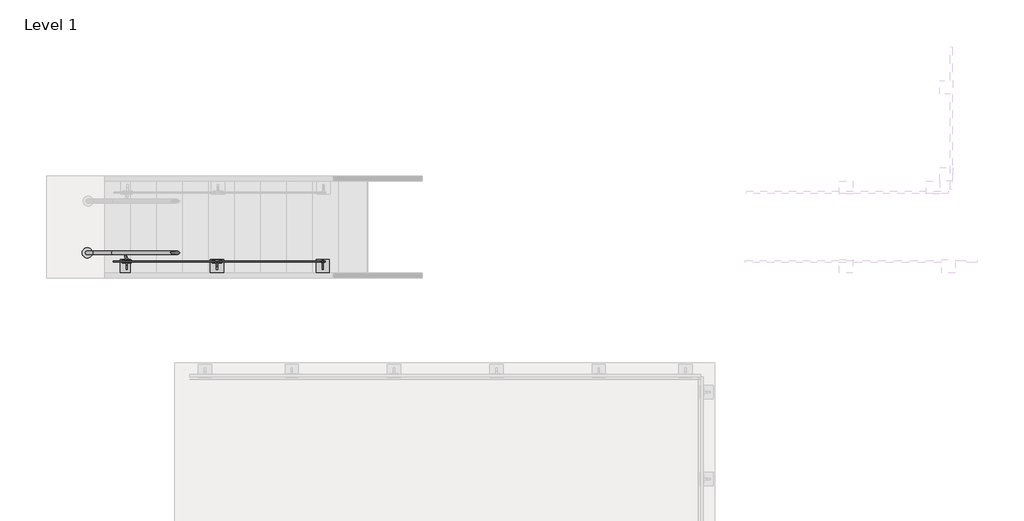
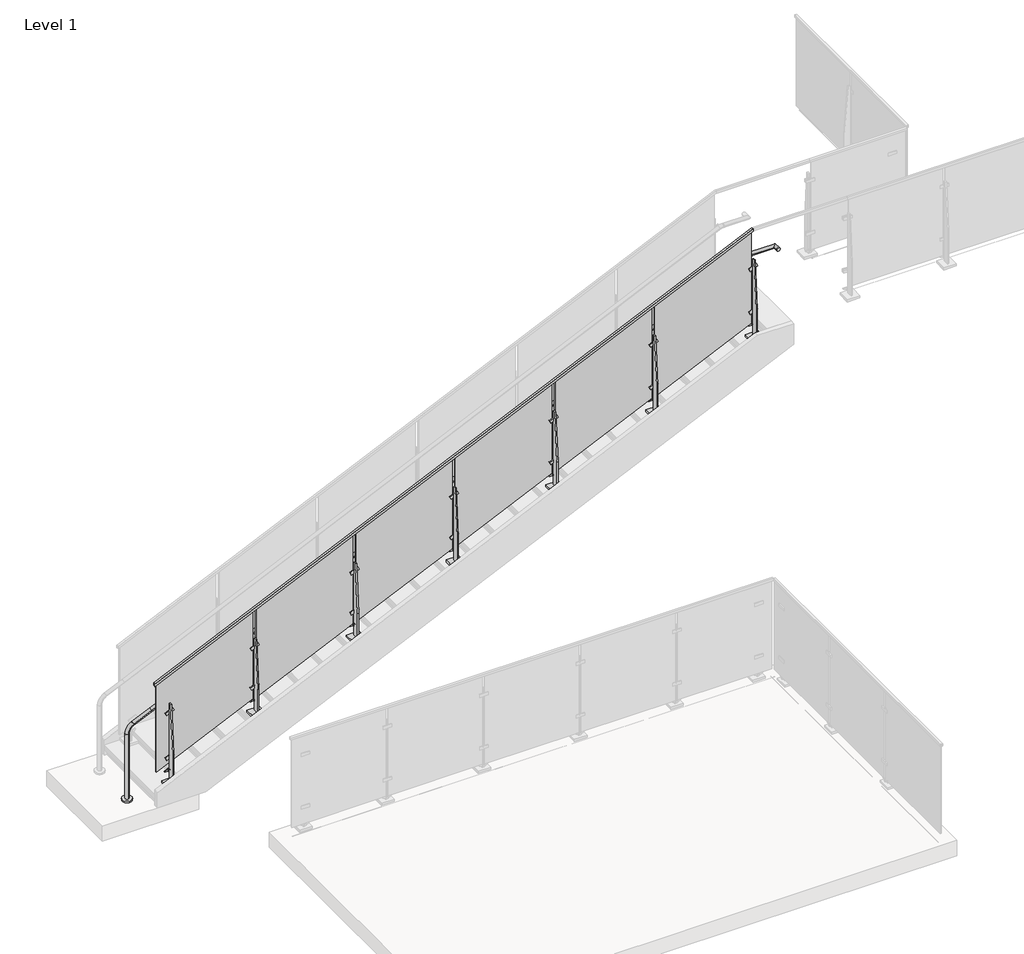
# One storey, part 10 of 37: 1 railing.
"""IFC4 building model written with IfcOpenShell, lengths in millimetres."""

from ifc_helpers import new_model, si_unit, point, frame, frame_2d, origin, place, context, project, spatial, polyline, circle_curve, ellipse_curve, trimmed, segment, composite_curve, outline, extrude, faceted_brep, element, save
from ifc_brep_helpers import plane_surface, cylinder_surface, revolved_surface, advanced_brep

model = new_model("IFC4")

# Units and contexts
model_context = context("Model", 3, world=origin())
ifc_project = project(units=[si_unit("LENGTHUNIT", "METRE", prefix="MILLI")], contexts=[model_context])

# Site, building, storey
site = spatial("IfcSite", under=ifc_project)
building = spatial("IfcBuilding", under=site)
storey = spatial("IfcBuildingStorey", under=building, Name="Level 1", Elevation=0.0)

# Railing
placement = place(None, origin())
element("IfcRailing", 1, ObjectType="VIVA-SOLO-Glass-Floor Mount-Stair_Right", at=placement, inside=storey, context=model_context, shape_type="SolidModel", body=[
    advanced_brep(
    [(-7332.9308273, 3620.0715519, 3778.85912), (-7332.9308273, 3658.1715519, 3778.85912), (-7059.8808273, 3658.1715519, 3778.85912), (-7097.9808273, 3620.0715519, 3778.85912), (-7097.9808273, 3575.6215519, 3778.85912), (-7059.8808273, 3575.6215519, 3778.85912)],
    [
        (0, 1, circle_curve(frame((-7332.9308273, 3639.1215519, 3778.85912), z_axis=(-1.0, 0.0, 0.0), x_axis=(0.0, 1.0, 0.0)), 19.05)),
        (1, 0, circle_curve(frame((-7332.9308273, 3639.1215519, 3778.85912), z_axis=(-1.0, 0.0, 0.0), x_axis=(0.0, 1.0, 0.0)), 19.05)),
        (1, 2),
        (2, 3, ellipse_curve(frame((-7078.9308273, 3639.1215519, 3778.85912), z_axis=(-0.707106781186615, 0.7071067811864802, 0.0), x_axis=(-0.70710678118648, -0.7071067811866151, 0.0)), 26.9407684, 19.05)),
        (3, 0),
        (3, 2, ellipse_curve(frame((-7078.9308273, 3639.1215519, 3778.85912), z_axis=(-0.707106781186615, 0.7071067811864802, 0.0), x_axis=(-0.70710678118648, -0.7071067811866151, 0.0)), 26.9407684, 19.05)),
        (4, 5, circle_curve(frame((-7078.9308273, 3575.6215519, 3778.85912), z_axis=(0.0, -1.0, 0.0), x_axis=(1.0, 0.0, 0.0)), 19.05)),
        (5, 4, circle_curve(frame((-7078.9308273, 3575.6215519, 3778.85912), z_axis=(0.0, -1.0, 0.0), x_axis=(1.0, 0.0, 0.0)), 19.05)),
        (2, 5),
        (4, 3),
    ],
    [
        plane_surface(frame((-7332.9308273, 3639.1215519, 3778.85912), z_axis=(-1.0, 0.0, 0.0), x_axis=(0.0, 0.0, 1.0))),
        cylinder_surface(frame((-7332.9308273, 3639.1215519, 3778.85912), z_axis=(-1.0, 0.0, 0.0), x_axis=(0.0, 1.0, 0.0)), 19.05),
        plane_surface(frame((-7078.9308273, 3575.6215519, 3778.85912), z_axis=(0.0, -1.0, 0.0), x_axis=(0.0, 0.0, 1.0))),
        cylinder_surface(frame((-7078.9308273, 3639.1215519, 3778.85912), z_axis=(0.0, 1.0, 0.0), x_axis=(1.0, 0.0, 0.0)), 19.05),
    ],
    [
        (0, [[1, 2]]),
        (1, [[-2, 3, 4, 5]]),
        (1, [[-1, -5, 6, -3]]),
        (2, [[7, 8]]),
        (3, [[-4, 9, -7, 10]]),
        (3, [[-6, -10, -8, -9]]),
    ],
),
    extrude(outline(composite_curve([segment(trimmed(circle_curve(frame_2d((-13901.6550242, 3639.1215519)), 50.8), [point((-13901.6550242, 3689.9215519))], [point((-13901.6550242, 3588.3215519))], False, "CARTESIAN"), True, "CONTINUOUS"), segment(trimmed(circle_curve(frame_2d((-13901.6550242, 3639.1215519)), 50.8), [point((-13901.6550242, 3588.3215519))], [point((-13901.6550242, 3689.9215519))], False, "CARTESIAN"), True, "CONTINUOUS")], self_intersect=False)), frame((0.0, 0.0, -1.27), z_axis=(0.0, 0.0, 1.0), x_axis=(1.0, 0.0, 0.0)), (0.0, 0.0, 1.0), 19.05),
    advanced_brep(
    [(-13901.6550242, 3620.0715519, 17.78), (-13901.6550242, 3658.1715519, 17.78), (-13901.6550242, 3620.0715519, 738.6446838), (-13901.6550242, 3658.1715519, 738.6446838), (-13842.1106053, 3658.1715519, 831.1319159), (-13842.1106053, 3620.0715519, 831.1319159), (-13655.0096028, 3620.0715519, 916.2100527), (-13655.0096028, 3658.1715519, 916.2100527), (-7379.6076911, 3620.0715519, 3769.7463521), (-7379.6076911, 3658.1715519, 3769.7463521), (-7332.9308273, 3620.0715519, 3778.85912), (-7332.9308273, 3658.1715519, 3778.85912), (-7337.55211, 3658.1715519, 3778.85912), (-7337.55211, 3620.0715519, 3778.85912)],
    [
        (0, 1, circle_curve(frame((-13901.6550242, 3639.1215519, 17.78), z_axis=(0.0, 0.0, -1.0), x_axis=(0.0, 1.0, 0.0)), 19.05)),
        (1, 0, circle_curve(frame((-13901.6550242, 3639.1215519, 17.78), z_axis=(0.0, 0.0, -1.0), x_axis=(0.0, 1.0, 0.0)), 19.05)),
        (0, 2),
        (2, 3, circle_curve(frame((-13901.6550242, 3639.1215519, 738.6446838), z_axis=(0.0, 0.0, -1.0), x_axis=(0.0, 1.0, 0.0)), 19.05)),
        (3, 1),
        (3, 2, circle_curve(frame((-13901.6550242, 3639.1215519, 738.6446838), z_axis=(0.0, 0.0, -1.0), x_axis=(0.0, 1.0, 0.0)), 19.05)),
        (4, 3, circle_curve(frame((-13800.0550242, 3658.1715519, 738.6446838), z_axis=(0.0, -1.0, 0.0), x_axis=(-1.0, 0.0, 0.0)), 101.6)),
        (2, 5, circle_curve(frame((-13800.0550242, 3620.0715519, 738.6446838), z_axis=(0.0, 1.0, 0.0), x_axis=(-1.0, 0.0, 0.0)), 101.6)),
        (5, 4, circle_curve(frame((-13842.1106053, 3639.1215519, 831.1319159), z_axis=(-0.9103074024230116, 0.0, -0.4139328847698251), x_axis=(0.0, 1.0, 0.0)), 19.05)),
        (4, 5, circle_curve(frame((-13842.1106053, 3639.1215519, 831.1319159), z_axis=(-0.9103074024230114, 0.0, -0.4139328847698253), x_axis=(0.0, 1.0, 0.0)), 19.05)),
        (5, 6),
        (6, 7, circle_curve(frame((-13655.0096028, 3639.1215519, 916.2100527), z_axis=(-0.9103074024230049, 0.0, -0.4139328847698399), x_axis=(0.0, 1.0, 0.0)), 19.05)),
        (7, 4),
        (7, 6, circle_curve(frame((-13655.0096028, 3639.1215519, 916.2100527), z_axis=(-0.9103074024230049, 0.0, -0.4139328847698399), x_axis=(0.0, 1.0, 0.0)), 19.05)),
        (6, 8),
        (8, 9, circle_curve(frame((-7379.6076911, 3639.1215519, 3769.7463521), z_axis=(-0.9103074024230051, 0.0, -0.4139328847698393), x_axis=(0.0, 1.0, 0.0)), 19.05)),
        (9, 7),
        (9, 8, circle_curve(frame((-7379.6076911, 3639.1215519, 3769.7463521), z_axis=(-0.9103074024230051, 0.0, -0.4139328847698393), x_axis=(0.0, 1.0, 0.0)), 19.05)),
        (10, 11, circle_curve(frame((-7332.9308273, 3639.1215519, 3778.85912), z_axis=(1.0, 0.0, 0.0), x_axis=(0.0, 1.0, 0.0)), 19.05)),
        (11, 10, circle_curve(frame((-7332.9308273, 3639.1215519, 3778.85912), z_axis=(1.0, 0.0, 0.0), x_axis=(0.0, 1.0, 0.0)), 19.05)),
        (12, 13, circle_curve(frame((-7337.55211, 3639.1215519, 3778.85912), z_axis=(1.0, 0.0, 0.0), x_axis=(0.0, 1.0, 0.0)), 19.05)),
        (13, 10),
        (11, 12),
        (13, 12, circle_curve(frame((-7337.55211, 3639.1215519, 3778.85912), z_axis=(1.0, 0.0, 0.0), x_axis=(0.0, 1.0, 0.0)), 19.05)),
        (12, 9, circle_curve(frame((-7337.55211, 3658.1715519, 3677.25912), z_axis=(0.0, -1.0, 0.0), x_axis=(-0.4139328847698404, 0.0, 0.9103074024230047)), 101.6)),
        (8, 13, circle_curve(frame((-7337.55211, 3620.0715519, 3677.25912), z_axis=(0.0, 1.0, 0.0), x_axis=(-0.4139328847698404, 0.0, 0.9103074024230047)), 101.6)),
    ],
    [
        plane_surface(frame((-13920.7050242, 3601.0215519, 17.78), z_axis=(0.0, 0.0, -1.0), x_axis=(1.0, 0.0, 0.0))),
        cylinder_surface(frame((-13901.6550242, 3639.1215519, 17.78), z_axis=(0.0, 0.0, -1.0), x_axis=(0.0, 1.0, 0.0)), 19.05),
        revolved_surface(trimmed(ellipse_curve(frame((-13901.6550242, 3639.1215519, 738.6446838), z_axis=(0.0, 0.0, -1.0), x_axis=(0.0, 1.0, 0.0)), 19.05, 19.05), [point((-13901.6550242, 3620.0715519, 738.6446838))], [point((-13901.6550242, 3658.1715519, 738.6446838))], True, "CARTESIAN"), (-13800.0550242, 3639.1215519, 738.6446838), (0.0, 1.0, 0.0)),
        revolved_surface(trimmed(ellipse_curve(frame((-13901.6550242, 3639.1215519, 738.6446838), z_axis=(0.0, 0.0, -1.0), x_axis=(0.0, 1.0, 0.0)), 19.05, 19.05), [point((-13901.6550242, 3658.1715519, 738.6446838))], [point((-13901.6550242, 3620.0715519, 738.6446838))], True, "CARTESIAN"), (-13800.0550242, 3639.1215519, 738.6446838), (0.0, 1.0, 0.0)),
        cylinder_surface(frame((-13842.1106053, 3639.1215519, 831.1319159), z_axis=(-0.9103074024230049, 0.0, -0.4139328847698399), x_axis=(0.0, 1.0, 0.0)), 19.05),
        cylinder_surface(frame((-13655.0096028, 3639.1215519, 916.2100527), z_axis=(-0.9103074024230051, 0.0, -0.4139328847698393), x_axis=(0.0, 1.0, 0.0)), 19.05),
        plane_surface(frame((-7332.9308273, 3639.1215519, 3797.90912), z_axis=(1.0, 0.0, 0.0), x_axis=(0.0, 1.0, 0.0))),
        cylinder_surface(frame((-7337.55211, 3639.1215519, 3778.85912), z_axis=(-1.0, 0.0, 0.0), x_axis=(0.0, 1.0, 0.0)), 19.05),
        revolved_surface(trimmed(ellipse_curve(frame((-7379.6076911, 3639.1215519, 3769.7463521), z_axis=(-0.9103074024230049, 0.0, -0.41393288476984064), x_axis=(0.0, 1.0000000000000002, 0.0)), 19.05, 19.05), [point((-7379.6076911, 3620.0715519, 3769.7463521))], [point((-7379.6076911, 3658.1715519, 3769.7463521))], True, "CARTESIAN"), (-7337.55211, 3639.1215519, 3677.25912), (0.0, 1.0000000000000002, 0.0)),
        revolved_surface(trimmed(ellipse_curve(frame((-7379.6076911, 3639.1215519, 3769.7463521), z_axis=(-0.9103074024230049, 0.0, -0.41393288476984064), x_axis=(0.0, 1.0000000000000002, 0.0)), 19.05, 19.05), [point((-7379.6076911, 3658.1715519, 3769.7463521))], [point((-7379.6076911, 3620.0715519, 3769.7463521))], True, "CARTESIAN"), (-7337.55211, 3639.1215519, 3677.25912), (0.0, 1.0000000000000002, 0.0)),
    ],
    [
        (0, [[1, 2]]),
        (1, [[-1, 3, 4, 5]]),
        (1, [[-2, -5, 6, -3]]),
        (2, [[7, -4, 8, 9]]),
        (3, [[-8, -6, -7, 10]]),
        (4, [[-9, 11, 12, 13]]),
        (4, [[-10, -13, 14, -11]]),
        (5, [[-12, 15, 16, 17]]),
        (5, [[-14, -17, 18, -15]]),
        (6, [[19, 20]]),
        (7, [[21, 22, -20, 23]]),
        (7, [[24, -23, -19, -22]]),
        (8, [[25, -16, 26, -21]]),
        (9, [[-26, -18, -25, -24]]),
    ],
),
    faceted_brep([(-13662.8950242, 3542.2840519, 1263.7514087), (-13662.8950242, 3564.5090519, 1263.7514087), (-13662.8950242, 3564.5090519, 1235.8487465), (-13662.8950242, 3559.7465519, 1235.8487465), (-13662.8950242, 3559.7465519, 1258.5196596), (-13662.8950242, 3547.0465519, 1258.5196596), (-13662.8950242, 3547.0465519, 1235.8487465), (-13662.8950242, 3542.2840519, 1235.8487465), (-7363.6950242, 3542.2840519, 4128.10912), (-7363.6950242, 3542.2840519, 4100.2064577), (-7363.6950242, 3547.0465519, 4100.2064577), (-7363.6950242, 3547.0465519, 4122.8773708), (-7363.6950242, 3559.7465519, 4122.8773708), (-7363.6950242, 3559.7465519, 4100.2064577), (-7363.6950242, 3564.5090519, 4100.2064577), (-7363.6950242, 3564.5090519, 4128.10912)], [[[0, 1, 2, 3, 4, 5, 6, 7]], [[8, 9, 10, 11, 12, 13, 14, 15]], [[1, 0, 8, 15]], [[2, 1, 15, 14]], [[3, 2, 14, 13]], [[4, 3, 13, 12]], [[5, 4, 12, 11]], [[6, 5, 11, 10]], [[7, 6, 10, 9]], [[0, 7, 9, 8]]]),
    extrude(outline(polyline([(4115.0752337, -7380.2453109), (3653.0820544, -8396.2453109), (2617.7111027, -8396.2453109), (3079.7042819, -7380.2453109), (4115.0752337, -7380.2453109)])), frame((0.0, 3547.0465519, 0.0), z_axis=(0.0, 1.0, 0.0), x_axis=(0.0, 0.0, 1.0)), (0.0, 0.0, 1.0), 12.7),
    extrude(outline(polyline([(-12.7, 0.0), (-12.7, 3.175), (50.8, 65.0875), (61.9125, 65.0875), (61.9125, 34.9249999), (58.7375, 34.9249999), (0.0, 3.175), (0.0, 0.0), (-12.7, 0.0)])), frame((-8441.1821543, 3631.1840519, 3265.6208023), z_axis=(0.8987940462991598, 0.0, 0.4383711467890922), x_axis=(0.0, -1.0, 0.0)), (0.0, 0.0, 1.0), 12.7),
    extrude(outline(polyline([(3537.5215519, 3320.5161681), (3537.5215519, 2461.8461538), (3474.0215519, 2461.8461538), (3474.0215519, 2787.1161681), (3512.1215519, 3320.5161681), (3537.5215519, 3320.5161681)])), frame((-8419.9116909, 0.0, 0.0), z_axis=(1.0, 0.0, 0.0), x_axis=(0.0, 1.0, 0.0)), (0.0, 0.0, 1.0), 12.7),
    extrude(outline(polyline([(0.0, -88.9), (0.0, 0.0), (9.525, 0.0), (9.525, -88.9), (0.0, -88.9)])), frame((-8366.6429776, 3547.0465519, 2757.8296699), z_axis=(-0.4383711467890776, 0.0, 0.8987940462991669), x_axis=(0.0, -1.0, 0.0)), (0.0, 0.0, 1.0), 31.75),
    extrude(outline(polyline([(0.0, -88.9), (0.0, 0.0), (9.525, 0.0), (9.525, -88.9), (0.0, -88.9)])), frame((-8366.6429776, 3569.2715519, 3228.6763813), z_axis=(-0.4383711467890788, 0.0, 0.8987940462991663), x_axis=(0.0, -1.0, 0.0)), (0.0, 0.0, 1.0), 31.75),
    extrude(outline(polyline([(0.0, -88.9), (0.0, 0.0), (9.525, 0.0), (9.525, -88.9), (0.0, -88.9)])), frame((-8366.6429776, 3547.0465519, 3228.6763813), z_axis=(-0.4383711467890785, 0.0, 0.8987940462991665), x_axis=(0.0, -1.0, 0.0)), (0.0, 0.0, 1.0), 31.75),
    extrude(outline(polyline([(0.0, -88.9), (0.0, 0.0), (9.525, 0.0), (9.525, -88.9), (0.0, -88.9)])), frame((-8366.6429776, 3569.2715519, 2757.8296699), z_axis=(-0.4383711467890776, 0.0, 0.8987940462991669), x_axis=(0.0, -1.0, 0.0)), (0.0, 0.0, 1.0), 31.75),
    extrude(outline(polyline([(2624.3409848, -8377.7915922), (2630.048327, -8380.575249), (2591.0771321, -8460.4780397), (2585.3697899, -8457.6943829), (2585.1586316, -8408.1362378), (2624.3409848, -8377.7915922)])), frame((0.0, 3547.0465519, 0.0), z_axis=(0.0, 1.0, 0.0), x_axis=(0.0, 0.0, 1.0)), (0.0, 0.0, 1.0), 12.7),
    extrude(outline(composite_curve([segment(polyline([(0.0, 0.0), (2.8057896, 0.0)]), True, "CONTINUOUS"), segment(trimmed(circle_curve(frame_2d((26.8875078, 8.0765616)), 25.4), [point((2.8057896, 0.0))], [point((8.7901892, -9.7460941))], True, "CARTESIAN"), True, "CONTINUOUS"), segment(polyline([(8.7901892, -9.7460941), (6.4034746, -11.1240644)]), True, "CONTINUOUS"), segment(trimmed(circle_curve(frame_2d((24.5007933, 6.6985913)), 25.4), [point((6.4034746, -11.1240644))], [point((0.0, 0.0))], False, "CARTESIAN"), True, "CONTINUOUS")], self_intersect=False)), frame((-8457.1032718, 3631.0848055, 3254.8076036), z_axis=(0.8987940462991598, 0.0, 0.4383711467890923), x_axis=(-0.37964054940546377, 0.5000000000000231, 0.7783784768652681)), (0.0, 0.0, 1.0), 50.8),
    extrude(outline(polyline([(-8347.6804409, 3571.6528019), (-8347.6804409, 3439.8903019), (-8479.4429409, 3439.8903019), (-8479.4429409, 3571.6528019), (-8347.6804409, 3571.6528019)])), frame((0.0, 0.0, 2461.8461538), z_axis=(0.0, 0.0, 1.0), x_axis=(1.0, 0.0, 0.0)), (0.0, 0.0, 1.0), 25.4),
    extrude(outline(composite_curve([segment(trimmed(circle_curve(frame_2d((2753.6743722, -8413.5535149)), 6.35), [point((2753.6743722, -8407.2035149))], [point((2753.6743722, -8419.9035149))], False, "CARTESIAN"), True, "CONTINUOUS"), segment(trimmed(circle_curve(frame_2d((2753.6743722, -8413.5535149)), 6.35), [point((2753.6743722, -8419.9035149))], [point((2753.6743722, -8407.2035149))], False, "CARTESIAN"), True, "CONTINUOUS")], self_intersect=False)), frame((0.0, 3547.0465519, 0.0), z_axis=(0.0, 1.0, 0.0), x_axis=(0.0, 0.0, 1.0)), (0.0, 0.0, 1.0), 12.7),
    extrude(outline(composite_curve([segment(trimmed(circle_curve(frame_2d((3223.4591393, -8413.5535149)), 6.35), [point((3223.4591393, -8407.2035149))], [point((3223.4591393, -8419.9035149))], False, "CARTESIAN"), True, "CONTINUOUS"), segment(trimmed(circle_curve(frame_2d((3223.4591393, -8413.5535149)), 6.35), [point((3223.4591393, -8419.9035149))], [point((3223.4591393, -8407.2035149))], False, "CARTESIAN"), True, "CONTINUOUS")], self_intersect=False)), frame((0.0, 3547.0465519, 0.0), z_axis=(0.0, 1.0, 0.0), x_axis=(0.0, 0.0, 1.0)), (0.0, 0.0, 1.0), 12.7),
    extrude(outline(composite_curve([segment(trimmed(circle_curve(frame_2d((2596.3552311, -8413.5535149)), 11.1125), [point((2596.3552311, -8402.4410149))], [point((2596.3552311, -8424.6660149))], False, "CARTESIAN"), True, "CONTINUOUS"), segment(trimmed(circle_curve(frame_2d((2596.3552311, -8413.5535149)), 11.1125), [point((2596.3552311, -8424.6660149))], [point((2596.3552311, -8402.4410149))], False, "CARTESIAN"), True, "CONTINUOUS")], self_intersect=False)), frame((0.0, 3537.5215519, 0.0), z_axis=(0.0, 1.0, 0.0), x_axis=(0.0, 0.0, 1.0)), (0.0, 0.0, 1.0), 25.4),
    extrude(outline(polyline([(3637.6822818, -8430.1119776), (3175.6891026, -9446.1119776), (2148.7880258, -9446.1119776), (2610.781205, -8430.1119776), (3637.6822818, -8430.1119776)])), frame((0.0, 3547.0465519, 0.0), z_axis=(0.0, 1.0, 0.0), x_axis=(0.0, 0.0, 1.0)), (0.0, 0.0, 1.0), 12.7),
    extrude(outline(polyline([(-12.7, 0.0), (-12.7, 3.175), (50.8, 65.0875), (61.9125, 65.0875), (61.9125, 34.925), (58.7375, 34.925), (0.0, 3.175), (0.0, 0.0), (-12.7, 0.0)])), frame((-9491.0488209, 3631.1840519, 2788.2278505), z_axis=(0.8987940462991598, 0.0, 0.4383711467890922), x_axis=(0.0, -1.0, 0.0)), (0.0, 0.0, 1.0), 12.7),
    extrude(outline(polyline([(3537.5215519, 2843.1232162), (3537.5215519, 1992.9230769), (3474.0215519, 1992.9230769), (3474.0215519, 2309.7232162), (3512.1215519, 2843.1232162), (3537.5215519, 2843.1232162)])), frame((-9469.7783575, 0.0, 0.0), z_axis=(1.0, 0.0, 0.0), x_axis=(0.0, 1.0, 0.0)), (0.0, 0.0, 1.0), 12.7),
    extrude(outline(polyline([(0.0, -88.9), (0.0, 0.0), (9.525, 0.0), (9.525, -88.9), (0.0, -88.9)])), frame((-9416.5096443, 3547.0465519, 2288.906593), z_axis=(-0.4383711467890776, 0.0, 0.8987940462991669), x_axis=(0.0, -1.0, 0.0)), (0.0, 0.0, 1.0), 31.75),
    extrude(outline(polyline([(0.0, -88.9), (0.0, 0.0), (9.525, 0.0), (9.525, -88.9), (0.0, -88.9)])), frame((-9416.5096443, 3569.2715519, 2751.2834295), z_axis=(-0.4383711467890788, 0.0, 0.8987940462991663), x_axis=(0.0, -1.0, 0.0)), (0.0, 0.0, 1.0), 31.75),
    extrude(outline(polyline([(0.0, -88.9), (0.0, 0.0), (9.525, 0.0), (9.525, -88.9), (0.0, -88.9)])), frame((-9416.5096443, 3547.0465519, 2751.2834295), z_axis=(-0.4383711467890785, 0.0, 0.8987940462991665), x_axis=(0.0, -1.0, 0.0)), (0.0, 0.0, 1.0), 31.75),
    extrude(outline(polyline([(0.0, -88.9), (0.0, 0.0), (9.525, 0.0), (9.525, -88.9), (0.0, -88.9)])), frame((-9416.5096443, 3569.2715519, 2288.906593), z_axis=(-0.4383711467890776, 0.0, 0.8987940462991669), x_axis=(0.0, -1.0, 0.0)), (0.0, 0.0, 1.0), 31.75),
    extrude(outline(polyline([(2155.4179079, -9427.6582588), (2161.1252501, -9430.4419156), (2122.1540552, -9510.3447063), (2116.446713, -9507.5610496), (2116.2355546, -9458.0029045), (2155.4179079, -9427.6582588)])), frame((0.0, 3547.0465519, 0.0), z_axis=(0.0, 1.0, 0.0), x_axis=(0.0, 0.0, 1.0)), (0.0, 0.0, 1.0), 12.7),
    extrude(outline(composite_curve([segment(polyline([(0.0, 0.0), (2.8057896, 0.0)]), True, "CONTINUOUS"), segment(trimmed(circle_curve(frame_2d((26.8875079, 8.0765616)), 25.4), [point((2.8057896, 0.0))], [point((8.7901892, -9.7460941))], True, "CARTESIAN"), True, "CONTINUOUS"), segment(polyline([(8.7901892, -9.7460941), (6.4034747, -11.1240644)]), True, "CONTINUOUS"), segment(trimmed(circle_curve(frame_2d((24.5007933, 6.6985913)), 25.4), [point((6.4034747, -11.1240644))], [point((0.0, 0.0))], False, "CARTESIAN"), True, "CONTINUOUS")], self_intersect=False)), frame((-9506.9699385, 3631.0848055, 2777.4146517), z_axis=(0.8987940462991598, 0.0, 0.4383711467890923), x_axis=(-0.37964054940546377, 0.5000000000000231, 0.7783784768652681)), (0.0, 0.0, 1.0), 50.8),
    extrude(outline(polyline([(-9397.5471075, 3571.6528019), (-9397.5471075, 3439.8903019), (-9529.3096075, 3439.8903019), (-9529.3096075, 3571.6528019), (-9397.5471075, 3571.6528019)])), frame((0.0, 0.0, 1992.9230769), z_axis=(0.0, 0.0, 1.0), x_axis=(1.0, 0.0, 0.0)), (0.0, 0.0, 1.0), 25.4),
    extrude(outline(composite_curve([segment(trimmed(circle_curve(frame_2d((2284.7512952, -9463.4201816)), 6.35), [point((2284.7512952, -9457.0701816))], [point((2284.7512952, -9469.7701816))], False, "CARTESIAN"), True, "CONTINUOUS"), segment(trimmed(circle_curve(frame_2d((2284.7512952, -9463.4201816)), 6.35), [point((2284.7512952, -9469.7701816))], [point((2284.7512952, -9457.0701816))], False, "CARTESIAN"), True, "CONTINUOUS")], self_intersect=False)), frame((0.0, 3547.0465519, 0.0), z_axis=(0.0, 1.0, 0.0), x_axis=(0.0, 0.0, 1.0)), (0.0, 0.0, 1.0), 12.7),
    extrude(outline(composite_curve([segment(trimmed(circle_curve(frame_2d((2746.0661875, -9463.4201816)), 6.35), [point((2746.0661875, -9457.0701816))], [point((2746.0661875, -9469.7701816))], False, "CARTESIAN"), True, "CONTINUOUS"), segment(trimmed(circle_curve(frame_2d((2746.0661875, -9463.4201816)), 6.35), [point((2746.0661875, -9469.7701816))], [point((2746.0661875, -9457.0701816))], False, "CARTESIAN"), True, "CONTINUOUS")], self_intersect=False)), frame((0.0, 3547.0465519, 0.0), z_axis=(0.0, 1.0, 0.0), x_axis=(0.0, 0.0, 1.0)), (0.0, 0.0, 1.0), 12.7),
    extrude(outline(composite_curve([segment(trimmed(circle_curve(frame_2d((2127.4321541, -9463.4201816)), 11.1125), [point((2127.4321541, -9452.3076816))], [point((2127.4321541, -9474.5326816))], False, "CARTESIAN"), True, "CONTINUOUS"), segment(trimmed(circle_curve(frame_2d((2127.4321541, -9463.4201816)), 11.1125), [point((2127.4321541, -9474.5326816))], [point((2127.4321541, -9452.3076816))], False, "CARTESIAN"), True, "CONTINUOUS")], self_intersect=False)), frame((0.0, 3537.5215519, 0.0), z_axis=(0.0, 1.0, 0.0), x_axis=(0.0, 0.0, 1.0)), (0.0, 0.0, 1.0), 25.4),
    extrude(outline(polyline([(3160.2893299, -9479.9786443), (2698.2961507, -10495.9786443), (1679.8649488, -10495.9786443), (2141.8581281, -9479.9786443), (3160.2893299, -9479.9786443)])), frame((0.0, 3547.0465519, 0.0), z_axis=(0.0, 1.0, 0.0), x_axis=(0.0, 0.0, 1.0)), (0.0, 0.0, 1.0), 12.7),
    extrude(outline(polyline([(-12.7, 0.0), (-12.7, 3.175), (50.8, 65.0875), (61.9125, 65.0875), (61.9125, 34.925), (58.7375, 34.925), (0.0, 3.175), (0.0, 0.0), (-12.7, 0.0)])), frame((-10540.9154876, 3631.1840519, 2310.8348986), z_axis=(0.8987940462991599, 0.0, 0.4383711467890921), x_axis=(0.0, -1.0, 0.0)), (0.0, 0.0, 1.0), 12.7),
    extrude(outline(polyline([(3537.5215519, 2365.7302644), (3537.5215519, 1524.0), (3474.0215519, 1524.0), (3474.0215519, 1832.3302644), (3512.1215519, 2365.7302644), (3537.5215519, 2365.7302644)])), frame((-10519.6450242, 0.0, 0.0), z_axis=(1.0, 0.0, 0.0), x_axis=(0.0, 1.0, 0.0)), (0.0, 0.0, 1.0), 12.7),
    extrude(outline(polyline([(0.0, -88.9), (0.0, 0.0), (9.525, 0.0), (9.525, -88.9), (0.0, -88.9)])), frame((-10466.3763109, 3547.0465519, 1819.9835161), z_axis=(-0.4383711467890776, 0.0, 0.8987940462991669), x_axis=(0.0, -1.0, 0.0)), (0.0, 0.0, 1.0), 31.75),
    extrude(outline(polyline([(0.0, -88.9), (0.0, 0.0), (9.525, 0.0), (9.525, -88.9), (0.0, -88.9)])), frame((-10466.3763109, 3569.2715519, 2273.8904776), z_axis=(-0.4383711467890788, 0.0, 0.8987940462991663), x_axis=(0.0, -1.0, 0.0)), (0.0, 0.0, 1.0), 31.75),
    extrude(outline(polyline([(0.0, -88.9), (0.0, 0.0), (9.525, 0.0), (9.525, -88.9), (0.0, -88.9)])), frame((-10466.3763109, 3547.0465519, 2273.8904776), z_axis=(-0.4383711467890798, 0.0, 0.8987940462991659), x_axis=(0.0, -1.0, 0.0)), (0.0, 0.0, 1.0), 31.75),
    extrude(outline(polyline([(0.0, -88.9), (0.0, 0.0), (9.525, 0.0), (9.525, -88.9), (0.0, -88.9)])), frame((-10466.3763109, 3569.2715519, 1819.9835161), z_axis=(-0.4383711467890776, 0.0, 0.8987940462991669), x_axis=(0.0, -1.0, 0.0)), (0.0, 0.0, 1.0), 31.75),
    extrude(outline(polyline([(1686.494831, -10477.5249255), (1692.2021732, -10480.3085823), (1653.2309782, -10560.211373), (1647.523636, -10557.4277162), (1647.3124777, -10507.8695712), (1686.494831, -10477.5249255)])), frame((0.0, 3547.0465519, 0.0), z_axis=(0.0, 1.0, 0.0), x_axis=(0.0, 0.0, 1.0)), (0.0, 0.0, 1.0), 12.7),
    extrude(outline(composite_curve([segment(polyline([(0.0, 0.0), (2.8057897, 0.0)]), True, "CONTINUOUS"), segment(trimmed(circle_curve(frame_2d((26.8875079, 8.0765616)), 25.4), [point((2.8057897, 0.0))], [point((8.7901892, -9.7460941))], True, "CARTESIAN"), True, "CONTINUOUS"), segment(polyline([(8.7901892, -9.7460941), (6.4034748, -11.1240644)]), True, "CONTINUOUS"), segment(trimmed(circle_curve(frame_2d((24.5007934, 6.6985914)), 25.4), [point((6.4034748, -11.1240644))], [point((0.0, 0.0))], False, "CARTESIAN"), True, "CONTINUOUS")], self_intersect=False)), frame((-10556.8366051, 3631.0848055, 2300.0216998), z_axis=(0.8987940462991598, 0.0, 0.4383711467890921), x_axis=(-0.37964054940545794, 0.5000000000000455, 0.7783784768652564)), (0.0, 0.0, 1.0), 50.8),
    extrude(outline(polyline([(-10447.4137742, 3571.6528019), (-10447.4137742, 3439.8903019), (-10579.1762742, 3439.8903019), (-10579.1762742, 3571.6528019), (-10447.4137742, 3571.6528019)])), frame((0.0, 0.0, 1524.0), z_axis=(0.0, 0.0, 1.0), x_axis=(1.0, 0.0, 0.0)), (0.0, 0.0, 1.0), 25.4),
    extrude(outline(composite_curve([segment(trimmed(circle_curve(frame_2d((1815.8282183, -10513.2868482)), 6.35), [point((1815.8282183, -10506.9368482))], [point((1815.8282183, -10519.6368482))], False, "CARTESIAN"), True, "CONTINUOUS"), segment(trimmed(circle_curve(frame_2d((1815.8282183, -10513.2868482)), 6.35), [point((1815.8282183, -10519.6368482))], [point((1815.8282183, -10506.9368482))], False, "CARTESIAN"), True, "CONTINUOUS")], self_intersect=False)), frame((0.0, 3547.0465519, 0.0), z_axis=(0.0, 1.0, 0.0), x_axis=(0.0, 0.0, 1.0)), (0.0, 0.0, 1.0), 12.7),
    extrude(outline(composite_curve([segment(trimmed(circle_curve(frame_2d((2268.6732356, -10513.2868482)), 6.35), [point((2268.6732356, -10506.9368482))], [point((2268.6732356, -10519.6368482))], False, "CARTESIAN"), True, "CONTINUOUS"), segment(trimmed(circle_curve(frame_2d((2268.6732356, -10513.2868482)), 6.35), [point((2268.6732356, -10519.6368482))], [point((2268.6732356, -10506.9368482))], False, "CARTESIAN"), True, "CONTINUOUS")], self_intersect=False)), frame((0.0, 3547.0465519, 0.0), z_axis=(0.0, 1.0, 0.0), x_axis=(0.0, 0.0, 1.0)), (0.0, 0.0, 1.0), 12.7),
    extrude(outline(composite_curve([segment(trimmed(circle_curve(frame_2d((1658.5090772, -10513.2868482)), 11.1125), [point((1658.5090772, -10502.1743482))], [point((1658.5090772, -10524.3993482))], False, "CARTESIAN"), True, "CONTINUOUS"), segment(trimmed(circle_curve(frame_2d((1658.5090772, -10513.2868482)), 11.1125), [point((1658.5090772, -10524.3993482))], [point((1658.5090772, -10502.1743482))], False, "CARTESIAN"), True, "CONTINUOUS")], self_intersect=False)), frame((0.0, 3537.5215519, 0.0), z_axis=(0.0, 1.0, 0.0), x_axis=(0.0, 0.0, 1.0)), (0.0, 0.0, 1.0), 25.4),
    extrude(outline(polyline([(2681.9015836, -10529.8453109), (2222.1730768, -11545.8453109), (1212.0742081, -11545.8453109), (1671.8027149, -10529.8453109), (2681.9015836, -10529.8453109)])), frame((0.0, 3547.0465519, 0.0), z_axis=(0.0, 1.0, 0.0), x_axis=(0.0, 0.0, 1.0)), (0.0, 0.0, 1.0), 12.7),
    extrude(outline(polyline([(-12.7, 0.0), (-12.7, 3.175), (50.8, 65.0875), (61.9125, 65.0875), (61.9125, 34.925), (58.7375, 34.925), (0.0, 3.175), (0.0, 0.0), (-12.7, 0.0)])), frame((-11590.7821543, 3631.1840519, 1833.4419467), z_axis=(0.8987940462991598, 0.0, 0.4383711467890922), x_axis=(0.0, -1.0, 0.0)), (0.0, 0.0, 1.0), 12.7),
    extrude(outline(polyline([(3537.5215519, 1888.3373125), (3537.5215519, 1055.0769231), (3474.0215519, 1055.0769231), (3474.0215519, 1354.9373125), (3512.1215519, 1888.3373125), (3537.5215519, 1888.3373125)])), frame((-11569.5116909, 0.0, 0.0), z_axis=(1.0, 0.0, 0.0), x_axis=(0.0, 1.0, 0.0)), (0.0, 0.0, 1.0), 12.7),
    extrude(outline(polyline([(0.0, -88.9), (0.0, 0.0), (9.525, 0.0), (9.525, -88.9), (0.0, -88.9)])), frame((-11516.2429776, 3547.0465519, 1351.0604391), z_axis=(-0.4383711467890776, 0.0, 0.8987940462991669), x_axis=(0.0, -1.0, 0.0)), (0.0, 0.0, 1.0), 31.75),
    extrude(outline(polyline([(0.0, -88.9), (0.0, 0.0), (9.525, 0.0), (9.525, -88.9), (0.0, -88.9)])), frame((-11516.2429776, 3569.2715519, 1796.4975257), z_axis=(-0.43837114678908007, 0.0, 0.8987940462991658), x_axis=(0.0, -1.0, 0.0)), (0.0, 0.0, 1.0), 31.75),
    extrude(outline(polyline([(0.0, -88.9), (0.0, 0.0), (9.525, 0.0), (9.525, -88.9), (0.0, -88.9)])), frame((-11516.2429776, 3547.0465519, 1796.4975257), z_axis=(-0.4383711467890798, 0.0, 0.8987940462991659), x_axis=(0.0, -1.0, 0.0)), (0.0, 0.0, 1.0), 31.75),
    extrude(outline(polyline([(0.0, -88.9), (0.0, 0.0), (9.525, 0.0), (9.525, -88.9), (0.0, -88.9)])), frame((-11516.2429776, 3569.2715519, 1351.0604391), z_axis=(-0.4383711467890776, 0.0, 0.8987940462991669), x_axis=(0.0, -1.0, 0.0)), (0.0, 0.0, 1.0), 31.75),
    extrude(outline(polyline([(1217.5717541, -11527.3915922), (1223.2790963, -11530.175249), (1184.3079013, -11610.0780397), (1178.6005591, -11607.2943829), (1178.3894008, -11557.7362378), (1217.5717541, -11527.3915922)])), frame((0.0, 3547.0465519, 0.0), z_axis=(0.0, 1.0, 0.0), x_axis=(0.0, 0.0, 1.0)), (0.0, 0.0, 1.0), 12.7),
    extrude(outline(composite_curve([segment(polyline([(0.0, 0.0), (2.8057896, 0.0)]), True, "CONTINUOUS"), segment(trimmed(circle_curve(frame_2d((26.8875078, 8.0765616)), 25.4), [point((2.8057896, 0.0))], [point((8.7901892, -9.7460941))], True, "CARTESIAN"), True, "CONTINUOUS"), segment(polyline([(8.7901892, -9.7460941), (6.4034746, -11.1240644)]), True, "CONTINUOUS"), segment(trimmed(circle_curve(frame_2d((24.5007933, 6.6985913)), 25.4), [point((6.4034746, -11.1240644))], [point((0.0, 0.0))], False, "CARTESIAN"), True, "CONTINUOUS")], self_intersect=False)), frame((-11606.7032718, 3631.0848055, 1822.628748), z_axis=(0.8987940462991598, 0.0, 0.4383711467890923), x_axis=(-0.37964054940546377, 0.5000000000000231, 0.7783784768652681)), (0.0, 0.0, 1.0), 50.8),
    extrude(outline(polyline([(-11497.2804409, 3571.6528019), (-11497.2804409, 3439.8903019), (-11629.0429409, 3439.8903019), (-11629.0429409, 3571.6528019), (-11497.2804409, 3571.6528019)])), frame((0.0, 0.0, 1055.0769231), z_axis=(0.0, 0.0, 1.0), x_axis=(1.0, 0.0, 0.0)), (0.0, 0.0, 1.0), 25.4),
    extrude(outline(composite_curve([segment(trimmed(circle_curve(frame_2d((1346.9051414, -11563.1535149)), 6.35), [point((1346.9051414, -11556.8035149))], [point((1346.9051414, -11569.5035149))], False, "CARTESIAN"), True, "CONTINUOUS"), segment(trimmed(circle_curve(frame_2d((1346.9051414, -11563.1535149)), 6.35), [point((1346.9051414, -11569.5035149))], [point((1346.9051414, -11556.8035149))], False, "CARTESIAN"), True, "CONTINUOUS")], self_intersect=False)), frame((0.0, 3547.0465519, 0.0), z_axis=(0.0, 1.0, 0.0), x_axis=(0.0, 0.0, 1.0)), (0.0, 0.0, 1.0), 12.7),
    extrude(outline(composite_curve([segment(trimmed(circle_curve(frame_2d((1791.2802837, -11563.1535149)), 6.35), [point((1791.2802837, -11556.8035149))], [point((1791.2802837, -11569.5035149))], False, "CARTESIAN"), True, "CONTINUOUS"), segment(trimmed(circle_curve(frame_2d((1791.2802837, -11563.1535149)), 6.35), [point((1791.2802837, -11569.5035149))], [point((1791.2802837, -11556.8035149))], False, "CARTESIAN"), True, "CONTINUOUS")], self_intersect=False)), frame((0.0, 3547.0465519, 0.0), z_axis=(0.0, 1.0, 0.0), x_axis=(0.0, 0.0, 1.0)), (0.0, 0.0, 1.0), 12.7),
    extrude(outline(composite_curve([segment(trimmed(circle_curve(frame_2d((1189.5860003, -11563.1535149)), 11.1125), [point((1189.5860003, -11552.0410149))], [point((1189.5860003, -11574.2660149))], False, "CARTESIAN"), True, "CONTINUOUS"), segment(trimmed(circle_curve(frame_2d((1189.5860003, -11563.1535149)), 11.1125), [point((1189.5860003, -11574.2660149))], [point((1189.5860003, -11552.0410149))], False, "CARTESIAN"), True, "CONTINUOUS")], self_intersect=False)), frame((0.0, 3537.5215519, 0.0), z_axis=(0.0, 1.0, 0.0), x_axis=(0.0, 0.0, 1.0)), (0.0, 0.0, 1.0), 25.4),
    extrude(outline(polyline([(2205.5034262, -11579.7119776), (1743.5102469, -12595.7119776), (742.018795, -12595.7119776), (1204.0119742, -11579.7119776), (2205.5034262, -11579.7119776)])), frame((0.0, 3547.0465519, 0.0), z_axis=(0.0, 1.0, 0.0), x_axis=(0.0, 0.0, 1.0)), (0.0, 0.0, 1.0), 12.7),
    extrude(outline(polyline([(-12.7, 0.0), (-12.7, 3.175), (50.8, 65.0875), (61.9125, 65.0875), (61.9125, 34.9249999), (58.7375, 34.9249999), (0.0, 3.175), (0.0, 0.0), (-12.7, 0.0)])), frame((-12640.6488209, 3631.1840519, 1356.0489948), z_axis=(0.8987940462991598, 0.0, 0.4383711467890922), x_axis=(0.0, -1.0, 0.0)), (0.0, 0.0, 1.0), 12.7),
    extrude(outline(polyline([(3537.5215519, 1410.9443606), (3537.5215519, 586.1538462), (3474.0215519, 586.1538462), (3474.0215519, 877.5443606), (3512.1215519, 1410.9443606), (3537.5215519, 1410.9443606)])), frame((-12619.3783575, 0.0, 0.0), z_axis=(1.0, 0.0, 0.0), x_axis=(0.0, 1.0, 0.0)), (0.0, 0.0, 1.0), 12.7),
    extrude(outline(polyline([(0.0, -88.9), (0.0, 0.0), (9.525, 0.0), (9.525, -88.9), (0.0, -88.9)])), frame((-12566.1096443, 3547.0465519, 882.1373622), z_axis=(-0.4383711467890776, 0.0, 0.8987940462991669), x_axis=(0.0, -1.0, 0.0)), (0.0, 0.0, 1.0), 31.75),
    extrude(outline(polyline([(0.0, -88.9), (0.0, 0.0), (9.525, 0.0), (9.525, -88.9), (0.0, -88.9)])), frame((-12566.1096443, 3569.2715519, 1319.1045738), z_axis=(-0.4383711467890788, 0.0, 0.8987940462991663), x_axis=(0.0, -1.0, 0.0)), (0.0, 0.0, 1.0), 31.75),
    extrude(outline(polyline([(0.0, -88.9), (0.0, 0.0), (9.525, 0.0), (9.525, -88.9), (0.0, -88.9)])), frame((-12566.1096443, 3547.0465519, 1319.1045738), z_axis=(-0.4383711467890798, 0.0, 0.8987940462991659), x_axis=(0.0, -1.0, 0.0)), (0.0, 0.0, 1.0), 31.75),
    extrude(outline(polyline([(0.0, -88.9), (0.0, 0.0), (9.525, 0.0), (9.525, -88.9), (0.0, -88.9)])), frame((-12566.1096443, 3569.2715519, 882.1373622), z_axis=(-0.4383711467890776, 0.0, 0.8987940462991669), x_axis=(0.0, -1.0, 0.0)), (0.0, 0.0, 1.0), 31.75),
    extrude(outline(polyline([(748.6486771, -12577.2582588), (754.3560193, -12580.0419156), (715.3848244, -12659.9447063), (709.6774822, -12657.1610496), (709.4663239, -12607.6029045), (748.6486771, -12577.2582588)])), frame((0.0, 3547.0465519, 0.0), z_axis=(0.0, 1.0, 0.0), x_axis=(0.0, 0.0, 1.0)), (0.0, 0.0, 1.0), 12.7),
    extrude(outline(composite_curve([segment(polyline([(0.0, 0.0), (2.8057896, 0.0)]), True, "CONTINUOUS"), segment(trimmed(circle_curve(frame_2d((26.8875078, 8.0765616)), 25.4), [point((2.8057896, 0.0))], [point((8.7901892, -9.7460941))], True, "CARTESIAN"), True, "CONTINUOUS"), segment(polyline([(8.7901892, -9.7460941), (6.4034746, -11.1240644)]), True, "CONTINUOUS"), segment(trimmed(circle_curve(frame_2d((24.5007933, 6.6985913)), 25.4), [point((6.4034746, -11.1240644))], [point((0.0, 0.0))], False, "CARTESIAN"), True, "CONTINUOUS")], self_intersect=False)), frame((-12656.5699385, 3631.0848055, 1345.2357961), z_axis=(0.8987940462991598, 0.0, 0.4383711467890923), x_axis=(-0.37964054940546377, 0.5000000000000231, 0.7783784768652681)), (0.0, 0.0, 1.0), 50.8),
    extrude(outline(polyline([(-12547.1471075, 3571.6528019), (-12547.1471075, 3439.8903019), (-12678.9096075, 3439.8903019), (-12678.9096075, 3571.6528019), (-12547.1471075, 3571.6528019)])), frame((0.0, 0.0, 586.1538462), z_axis=(0.0, 0.0, 1.0), x_axis=(1.0, 0.0, 0.0)), (0.0, 0.0, 1.0), 25.4),
    extrude(outline(composite_curve([segment(trimmed(circle_curve(frame_2d((877.9820645, -12613.0201816)), 6.35), [point((877.9820645, -12606.6701816))], [point((877.9820645, -12619.3701816))], False, "CARTESIAN"), True, "CONTINUOUS"), segment(trimmed(circle_curve(frame_2d((877.9820645, -12613.0201816)), 6.35), [point((877.9820645, -12619.3701816))], [point((877.9820645, -12606.6701816))], False, "CARTESIAN"), True, "CONTINUOUS")], self_intersect=False)), frame((0.0, 3547.0465519, 0.0), z_axis=(0.0, 1.0, 0.0), x_axis=(0.0, 0.0, 1.0)), (0.0, 0.0, 1.0), 12.7),
    extrude(outline(composite_curve([segment(trimmed(circle_curve(frame_2d((1313.8873318, -12613.0201816)), 6.35), [point((1313.8873318, -12606.6701816))], [point((1313.8873318, -12619.3701816))], False, "CARTESIAN"), True, "CONTINUOUS"), segment(trimmed(circle_curve(frame_2d((1313.8873318, -12613.0201816)), 6.35), [point((1313.8873318, -12619.3701816))], [point((1313.8873318, -12606.6701816))], False, "CARTESIAN"), True, "CONTINUOUS")], self_intersect=False)), frame((0.0, 3547.0465519, 0.0), z_axis=(0.0, 1.0, 0.0), x_axis=(0.0, 0.0, 1.0)), (0.0, 0.0, 1.0), 12.7),
    extrude(outline(composite_curve([segment(trimmed(circle_curve(frame_2d((720.6629234, -12613.0201816)), 11.1125), [point((720.6629234, -12601.9076816))], [point((720.6629234, -12624.1326816))], False, "CARTESIAN"), True, "CONTINUOUS"), segment(trimmed(circle_curve(frame_2d((720.6629234, -12613.0201816)), 11.1125), [point((720.6629234, -12624.1326816))], [point((720.6629234, -12601.9076816))], False, "CARTESIAN"), True, "CONTINUOUS")], self_intersect=False)), frame((0.0, 3537.5215519, 0.0), z_axis=(0.0, 1.0, 0.0), x_axis=(0.0, 0.0, 1.0)), (0.0, 0.0, 1.0), 25.4),
    extrude(outline(polyline([(1728.1104743, -12629.5786443), (1266.117295, -13645.5786443), (273.0957181, -13645.5786443), (735.0888973, -12629.5786443), (1728.1104743, -12629.5786443)])), frame((0.0, 3547.0465519, 0.0), z_axis=(0.0, 1.0, 0.0), x_axis=(0.0, 0.0, 1.0)), (0.0, 0.0, 1.0), 12.7),
    extrude(outline(polyline([(-12.7, 0.0), (-12.7, 3.175), (50.8, 65.0875), (61.9125, 65.0875), (61.9125, 34.925), (58.7375, 34.925), (0.0, 3.175), (0.0, 0.0), (-12.7, 0.0)])), frame((-7391.3154876, 3631.1840519, 3743.0137542), z_axis=(0.8987940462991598, 0.0, 0.4383711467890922), x_axis=(0.0, -1.0, 0.0)), (0.0, 0.0, 1.0), 12.7),
    extrude(outline(polyline([(3537.5215519, 3797.90912), (3537.5215519, 2930.7692308), (3474.0215519, 2930.7692308), (3474.0215519, 3264.50912), (3512.1215519, 3797.90912), (3537.5215519, 3797.90912)])), frame((-7370.0450242, 0.0, 0.0), z_axis=(1.0, 0.0, 0.0), x_axis=(0.0, 1.0, 0.0)), (0.0, 0.0, 1.0), 12.7),
    extrude(outline(polyline([(0.0, -88.9), (0.0, 0.0), (9.525, 0.0), (9.525, -88.9), (0.0, -88.9)])), frame((-7316.7763109, 3547.0465519, 3226.7527468), z_axis=(-0.4383711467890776, 0.0, 0.8987940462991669), x_axis=(0.0, -1.0, 0.0)), (0.0, 0.0, 1.0), 31.75),
    extrude(outline(polyline([(0.0, -88.9), (0.0, 0.0), (9.525, 0.0), (9.525, -88.9), (0.0, -88.9)])), frame((-7316.7763109, 3569.2715519, 3706.0693332), z_axis=(-0.4383711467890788, 0.0, 0.8987940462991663), x_axis=(0.0, -1.0, 0.0)), (0.0, 0.0, 1.0), 31.75),
    extrude(outline(polyline([(0.0, -88.9), (0.0, 0.0), (9.525, 0.0), (9.525, -88.9), (0.0, -88.9)])), frame((-7316.7763109, 3547.0465519, 3706.0693332), z_axis=(-0.4383711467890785, 0.0, 0.8987940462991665), x_axis=(0.0, -1.0, 0.0)), (0.0, 0.0, 1.0), 31.75),
    extrude(outline(polyline([(0.0, -88.9), (0.0, 0.0), (9.525, 0.0), (9.525, -88.9), (0.0, -88.9)])), frame((-7316.7763109, 3569.2715519, 3226.7527468), z_axis=(-0.4383711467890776, 0.0, 0.8987940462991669), x_axis=(0.0, -1.0, 0.0)), (0.0, 0.0, 1.0), 31.75),
    extrude(outline(polyline([(3093.2640618, -7327.9249255), (3098.971404, -7330.7085823), (3060.000209, -7410.611373), (3054.2928668, -7407.8277162), (3054.0817085, -7358.2695712), (3093.2640618, -7327.9249255)])), frame((0.0, 3547.0465519, 0.0), z_axis=(0.0, 1.0, 0.0), x_axis=(0.0, 0.0, 1.0)), (0.0, 0.0, 1.0), 12.7),
    extrude(outline(composite_curve([segment(polyline([(0.0, 0.0), (2.8057896, 0.0)]), True, "CONTINUOUS"), segment(trimmed(circle_curve(frame_2d((26.8875078, 8.0765616)), 25.4), [point((2.8057896, 0.0))], [point((8.7901892, -9.7460941))], True, "CARTESIAN"), True, "CONTINUOUS"), segment(polyline([(8.7901892, -9.7460941), (6.4034747, -11.1240644)]), True, "CONTINUOUS"), segment(trimmed(circle_curve(frame_2d((24.5007934, 6.6985914)), 25.4), [point((6.4034747, -11.1240644))], [point((0.0, 0.0))], False, "CARTESIAN"), True, "CONTINUOUS")], self_intersect=False)), frame((-7407.2366051, 3631.0848055, 3732.2005555), z_axis=(0.8987940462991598, 0.0, 0.4383711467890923), x_axis=(-0.37964054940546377, 0.5000000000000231, 0.7783784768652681)), (0.0, 0.0, 1.0), 50.8),
    extrude(outline(polyline([(-7297.8137742, 3571.6528019), (-7297.8137742, 3439.8903019), (-7429.5762742, 3439.8903019), (-7429.5762742, 3571.6528019), (-7297.8137742, 3571.6528019)])), frame((0.0, 0.0, 2930.7692308), z_axis=(0.0, 0.0, 1.0), x_axis=(1.0, 0.0, 0.0)), (0.0, 0.0, 1.0), 25.4),
    extrude(outline(composite_curve([segment(trimmed(circle_curve(frame_2d((3222.5974491, -7363.6868482)), 6.35), [point((3222.5974491, -7357.3368482))], [point((3222.5974491, -7370.0368482))], False, "CARTESIAN"), True, "CONTINUOUS"), segment(trimmed(circle_curve(frame_2d((3222.5974491, -7363.6868482)), 6.35), [point((3222.5974491, -7370.0368482))], [point((3222.5974491, -7357.3368482))], False, "CARTESIAN"), True, "CONTINUOUS")], self_intersect=False)), frame((0.0, 3547.0465519, 0.0), z_axis=(0.0, 1.0, 0.0), x_axis=(0.0, 0.0, 1.0)), (0.0, 0.0, 1.0), 12.7),
    extrude(outline(composite_curve([segment(trimmed(circle_curve(frame_2d((3700.8520912, -7363.6868482)), 6.35), [point((3700.8520912, -7357.3368482))], [point((3700.8520912, -7370.0368482))], False, "CARTESIAN"), True, "CONTINUOUS"), segment(trimmed(circle_curve(frame_2d((3700.8520912, -7363.6868482)), 6.35), [point((3700.8520912, -7370.0368482))], [point((3700.8520912, -7357.3368482))], False, "CARTESIAN"), True, "CONTINUOUS")], self_intersect=False)), frame((0.0, 3547.0465519, 0.0), z_axis=(0.0, 1.0, 0.0), x_axis=(0.0, 0.0, 1.0)), (0.0, 0.0, 1.0), 12.7),
    extrude(outline(composite_curve([segment(trimmed(circle_curve(frame_2d((3065.278308, -7363.6868482)), 11.1125), [point((3065.278308, -7352.5743482))], [point((3065.278308, -7374.7993482))], False, "CARTESIAN"), True, "CONTINUOUS"), segment(trimmed(circle_curve(frame_2d((3065.278308, -7363.6868482)), 11.1125), [point((3065.278308, -7374.7993482))], [point((3065.278308, -7352.5743482))], False, "CARTESIAN"), True, "CONTINUOUS")], self_intersect=False)), frame((0.0, 3537.5215519, 0.0), z_axis=(0.0, 1.0, 0.0), x_axis=(0.0, 0.0, 1.0)), (0.0, 0.0, 1.0), 25.4),
    extrude(outline(polyline([(-12.7, 0.0), (-12.7, 3.175), (50.8, 65.0874999), (61.9125, 65.0874999), (61.9125, 34.9249999), (58.7375, 34.9249999), (0.0, 3.175), (0.0, 0.0), (-12.7, 0.0)])), frame((-13538.1154876, 3631.1840519, 947.9550198), z_axis=(0.8987940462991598, 0.0, 0.4383711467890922), x_axis=(0.0, -1.0, 0.0)), (0.0, 0.0, 1.0), 12.7),
    extrude(outline(polyline([(3537.5215519, 1002.8503856), (3537.5215519, 117.2307692), (3474.0215519, 117.2307692), (3474.0215519, 469.4503856), (3512.1215519, 1002.8503856), (3537.5215519, 1002.8503856)])), frame((-13516.8450242, 0.0, 0.0), z_axis=(1.0, 0.0, 0.0), x_axis=(0.0, 1.0, 0.0)), (0.0, 0.0, 1.0), 12.7),
    extrude(outline(polyline([(0.0, -88.9), (0.0, 0.0), (9.525, 0.0), (9.525, -88.9), (0.0, -88.9)])), frame((-13463.5763109, 3547.0465519, 413.2142853), z_axis=(-0.4383711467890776, 0.0, 0.8987940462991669), x_axis=(0.0, -1.0, 0.0)), (0.0, 0.0, 1.0), 31.75),
    extrude(outline(polyline([(0.0, -88.9), (0.0, 0.0), (9.525, 0.0), (9.525, -88.9), (0.0, -88.9)])), frame((-13463.5763109, 3569.2715519, 911.0105988), z_axis=(-0.4383711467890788, 0.0, 0.8987940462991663), x_axis=(0.0, -1.0, 0.0)), (0.0, 0.0, 1.0), 31.75),
    extrude(outline(polyline([(0.0, -88.9), (0.0, 0.0), (9.525, 0.0), (9.525, -88.9), (0.0, -88.9)])), frame((-13463.5763109, 3547.0465519, 911.0105988), z_axis=(-0.4383711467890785, 0.0, 0.8987940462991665), x_axis=(0.0, -1.0, 0.0)), (0.0, 0.0, 1.0), 31.75),
    extrude(outline(polyline([(0.0, -88.9), (0.0, 0.0), (9.525, 0.0), (9.525, -88.9), (0.0, -88.9)])), frame((-13463.5763109, 3569.2715519, 413.2142853), z_axis=(-0.43837114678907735, 0.0, 0.8987940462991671), x_axis=(0.0, -1.0, 0.0)), (0.0, 0.0, 1.0), 31.75),
    extrude(outline(polyline([(279.7256002, -13474.7249255), (285.4329424, -13477.5085823), (246.4617475, -13557.411373), (240.7544053, -13554.6277162), (240.5432469, -13505.0695712), (279.7256002, -13474.7249255)])), frame((0.0, 3547.0465519, 0.0), z_axis=(0.0, 1.0, 0.0), x_axis=(0.0, 0.0, 1.0)), (0.0, 0.0, 1.0), 12.7),
    extrude(outline(composite_curve([segment(polyline([(0.0, 0.0), (2.8057897, 0.0)]), True, "CONTINUOUS"), segment(trimmed(circle_curve(frame_2d((26.8875079, 8.0765616)), 25.4), [point((2.8057897, 0.0))], [point((8.7901892, -9.7460941))], True, "CARTESIAN"), True, "CONTINUOUS"), segment(polyline([(8.7901892, -9.7460941), (6.4034747, -11.1240644)]), True, "CONTINUOUS"), segment(trimmed(circle_curve(frame_2d((24.5007934, 6.6985914)), 25.4), [point((6.4034747, -11.1240644))], [point((0.0, 0.0))], False, "CARTESIAN"), True, "CONTINUOUS")], self_intersect=False)), frame((-13554.0366051, 3631.0848055, 937.1418211), z_axis=(0.8987940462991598, 0.0, 0.4383711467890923), x_axis=(-0.37964054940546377, 0.5000000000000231, 0.7783784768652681)), (0.0, 0.0, 1.0), 50.8),
    extrude(outline(polyline([(-13444.6137742, 3571.6528019), (-13444.6137742, 3439.8903019), (-13576.3762742, 3439.8903019), (-13576.3762742, 3571.6528019), (-13444.6137742, 3571.6528019)])), frame((0.0, 0.0, 117.2307692), z_axis=(0.0, 0.0, 1.0), x_axis=(1.0, 0.0, 0.0)), (0.0, 0.0, 1.0), 25.4),
    extrude(outline(composite_curve([segment(trimmed(circle_curve(frame_2d((409.0589875, -13510.4868482)), 6.35), [point((409.0589875, -13504.1368482))], [point((409.0589875, -13516.8368482))], False, "CARTESIAN"), True, "CONTINUOUS"), segment(trimmed(circle_curve(frame_2d((409.0589875, -13510.4868482)), 6.35), [point((409.0589875, -13516.8368482))], [point((409.0589875, -13504.1368482))], False, "CARTESIAN"), True, "CONTINUOUS")], self_intersect=False)), frame((0.0, 3547.0465519, 0.0), z_axis=(0.0, 1.0, 0.0), x_axis=(0.0, 0.0, 1.0)), (0.0, 0.0, 1.0), 12.7),
    extrude(outline(composite_curve([segment(trimmed(circle_curve(frame_2d((905.7933569, -13510.4868482)), 6.35), [point((905.7933569, -13504.1368482))], [point((905.7933569, -13516.8368482))], False, "CARTESIAN"), True, "CONTINUOUS"), segment(trimmed(circle_curve(frame_2d((905.7933569, -13510.4868482)), 6.35), [point((905.7933569, -13516.8368482))], [point((905.7933569, -13504.1368482))], False, "CARTESIAN"), True, "CONTINUOUS")], self_intersect=False)), frame((0.0, 3547.0465519, 0.0), z_axis=(0.0, 1.0, 0.0), x_axis=(0.0, 0.0, 1.0)), (0.0, 0.0, 1.0), 12.7),
    extrude(outline(composite_curve([segment(trimmed(circle_curve(frame_2d((251.7398464, -13510.4868482)), 11.1125), [point((251.7398464, -13499.3743482))], [point((251.7398464, -13521.5993482))], False, "CARTESIAN"), True, "CONTINUOUS"), segment(trimmed(circle_curve(frame_2d((251.7398464, -13510.4868482)), 11.1125), [point((251.7398464, -13521.5993482))], [point((251.7398464, -13499.3743482))], False, "CARTESIAN"), True, "CONTINUOUS")], self_intersect=False)), frame((0.0, 3537.5215519, 0.0), z_axis=(0.0, 1.0, 0.0), x_axis=(0.0, 0.0, 1.0)), (0.0, 0.0, 1.0), 25.4),
])

save(model, "model.ifc")
